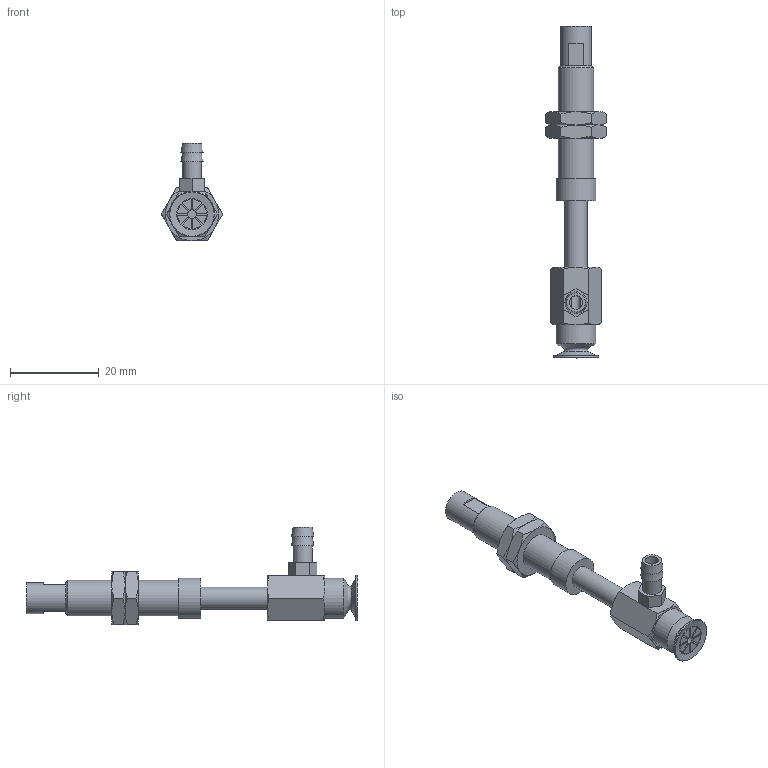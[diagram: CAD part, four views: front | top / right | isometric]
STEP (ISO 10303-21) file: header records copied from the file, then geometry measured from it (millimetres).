
FILE_DESCRIPTION(('STEP AP203'),'1');
FILE_NAME('-T.stp','2025-02-11T07:54:07',(' '),(' '),'Spatial InterOp 3D',' ',' ');
FILE_SCHEMA(('CONFIG_CONTROL_DESIGN'));
Length unit declared in the file: millimetre
Products named in the file (7): BNABPAYS-10B-15-※-T; NAPAYS-10A-15--M; NAPAYS-10A-15--F; Nut-10A-S; CONNECTOR-10A-15-PA; BPAG-10B-※_3D; T
Assembly tree (7 placements, depth 2):
  BNABPAYS-10B-15-※-T
    NAPAYS-10A-15--M
    NAPAYS-10A-15--F
    Nut-10A-S  x2
    CONNECTOR-10A-15-PA
    BPAG-10B-※_3D
    T
Bounding box: 13.86 x 75 x 22 mm (x, y, z)
Volume: 4134.3 mm3; surface area: 5226.2 mm2
Topology: 7 solids, 7 shells, 181 faces, 405 edges, 251 vertices
Faces by surface type: plane 87, cone 54, cylinder 29, torus 11
Full cylindrical faces by diameter (mm): 2 x2, 3 x1, 4 x2, 4.134 x2, 4.3 x1, 5 x4, 6 x2, 7 x2, 7.188 x2, 8 x1, 9 x2
Entity records: 4708 total; most frequent: CARTESIAN_POINT 1032, DIRECTION 708, ORIENTED_EDGE 606, EDGE_CURVE 303, AXIS2_PLACEMENT_3D 293, EDGE_LOOP 228, VERTEX_POINT 215, FACE_OUTER_BOUND 189
